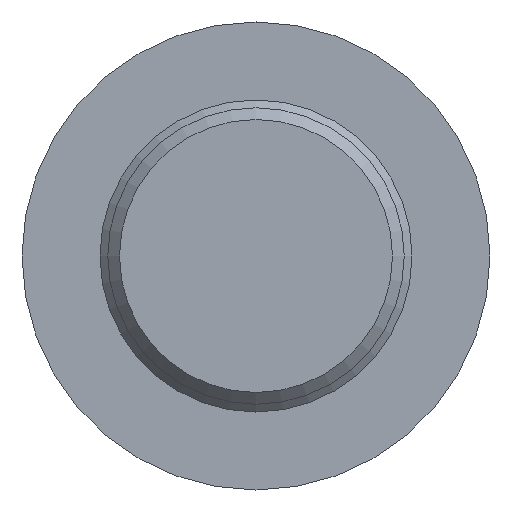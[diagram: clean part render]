
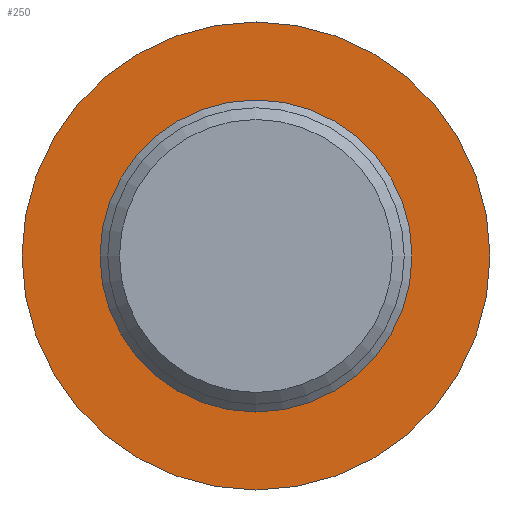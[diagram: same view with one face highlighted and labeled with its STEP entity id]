
A CAD part, front view. The second image highlights one B-rep face of the part: STEP entity #250.
In plain terms, the highlighted planar face has unit normal (0, -1, 0).
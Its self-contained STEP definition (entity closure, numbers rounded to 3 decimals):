
#17=FACE_BOUND('',#61,.T.);
#30=PLANE('',#303);
#43=FACE_OUTER_BOUND('',#60,.T.);
#60=EDGE_LOOP('',(#214,#215));
#61=EDGE_LOOP('',(#216,#217));
#100=CIRCLE('',#301,4.);
#101=CIRCLE('',#302,4.);
#102=CIRCLE('',#304,6.);
#103=CIRCLE('',#305,6.);
#126=VERTEX_POINT('',#456);
#127=VERTEX_POINT('',#457);
#128=VERTEX_POINT('',#462);
#129=VERTEX_POINT('',#463);
#157=EDGE_CURVE('',#126,#127,#100,.T.);
#158=EDGE_CURVE('',#127,#126,#101,.T.);
#160=EDGE_CURVE('',#128,#129,#102,.T.);
#161=EDGE_CURVE('',#129,#128,#103,.T.);
#214=ORIENTED_EDGE('',*,*,#160,.F.);
#215=ORIENTED_EDGE('',*,*,#161,.F.);
#216=ORIENTED_EDGE('',*,*,#157,.T.);
#217=ORIENTED_EDGE('',*,*,#158,.T.);
#250=ADVANCED_FACE('',(#43,#17),#30,.T.);
#301=AXIS2_PLACEMENT_3D('',#458,#375,#376);
#302=AXIS2_PLACEMENT_3D('',#459,#377,#378);
#303=AXIS2_PLACEMENT_3D('',#461,#380,#381);
#304=AXIS2_PLACEMENT_3D('',#464,#382,#383);
#305=AXIS2_PLACEMENT_3D('',#465,#384,#385);
#375=DIRECTION('center_axis',(0.,1.,0.));
#376=DIRECTION('ref_axis',(1.,0.,0.));
#377=DIRECTION('center_axis',(0.,1.,0.));
#378=DIRECTION('ref_axis',(1.,0.,0.));
#380=DIRECTION('center_axis',(0.,-1.,0.));
#381=DIRECTION('ref_axis',(0.,0.,-1.));
#382=DIRECTION('center_axis',(0.,1.,0.));
#383=DIRECTION('ref_axis',(1.,0.,0.));
#384=DIRECTION('center_axis',(0.,1.,0.));
#385=DIRECTION('ref_axis',(1.,0.,0.));
#456=CARTESIAN_POINT('',(0.,-890.,4.));
#457=CARTESIAN_POINT('',(0.,-890.,-4.));
#458=CARTESIAN_POINT('Origin',(0.,-890.,0.));
#459=CARTESIAN_POINT('Origin',(0.,-890.,0.));
#461=CARTESIAN_POINT('Origin',(0.,-890.,6.));
#462=CARTESIAN_POINT('',(0.,-890.,6.));
#463=CARTESIAN_POINT('',(0.,-890.,-6.));
#464=CARTESIAN_POINT('Origin',(0.,-890.,0.));
#465=CARTESIAN_POINT('Origin',(0.,-890.,0.));
